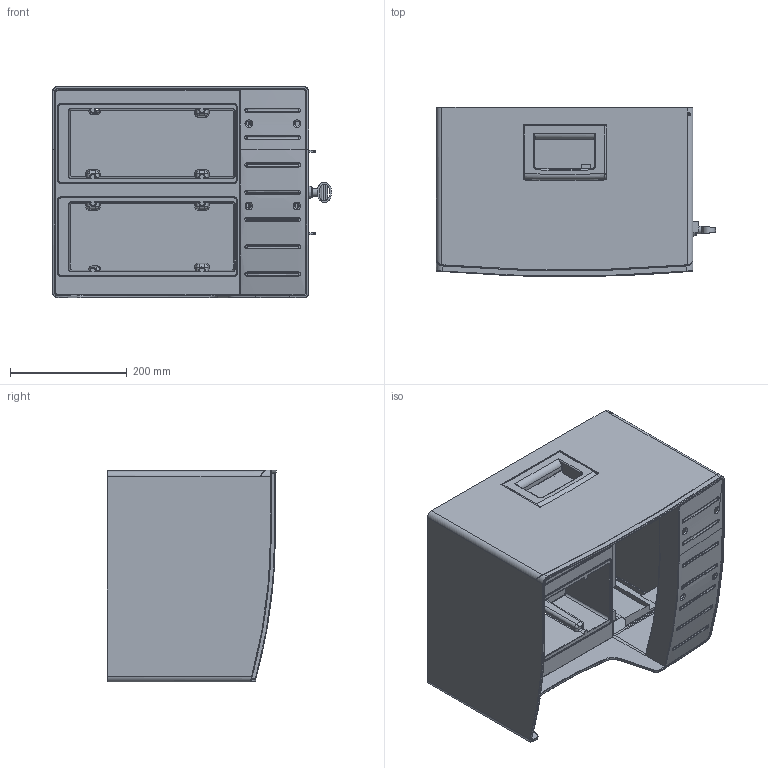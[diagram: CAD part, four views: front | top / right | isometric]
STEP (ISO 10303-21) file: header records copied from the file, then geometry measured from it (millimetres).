
FILE_DESCRIPTION(/* description */ (''),/* implementation_level */ '2;1');
FILE_NAME(/* name */ '4005436.stp',/* time_stamp */ '2016-09-26T11:42:26+02:00',/* author */ (''),/* organization */ (''),/* preprocessor_version */ 'ST-DEVELOPER v16',/* originating_system */ 'SIEMENS PLM Software NX 11.0',/* authorisation */ '');
FILE_SCHEMA (('AUTOMOTIVE_DESIGN { 1 0 10303 214 3 1 1 1 }'));
Products named in the file (1): 4005436_LINKEDEXT_jt
Bounding box: 478.78 x 289.91 x 363.5 mm (x, y, z)
Surface area: 1278409 mm2 (no closed solid volume)
Topology: 0 solids, 85 shells, 737 faces, 3224 edges, 2435 vertices
Faces by surface type: cylinder 289, plane 221, bspline 130, torus 37, sphere 37, cone 21, revolution 1, extrusion 1
Full cylindrical faces by diameter (mm): 5 x2, 5.5 x1, 13.5 x1
Entity records: 48299 total; most frequent: CARTESIAN_POINT 18828, DIRECTION 4781, ORIENTED_EDGE 4058, EDGE_CURVE 3120, VERTEX_POINT 2408, AXIS2_PLACEMENT_3D 1741, VECTOR 1298, LINE 1297
